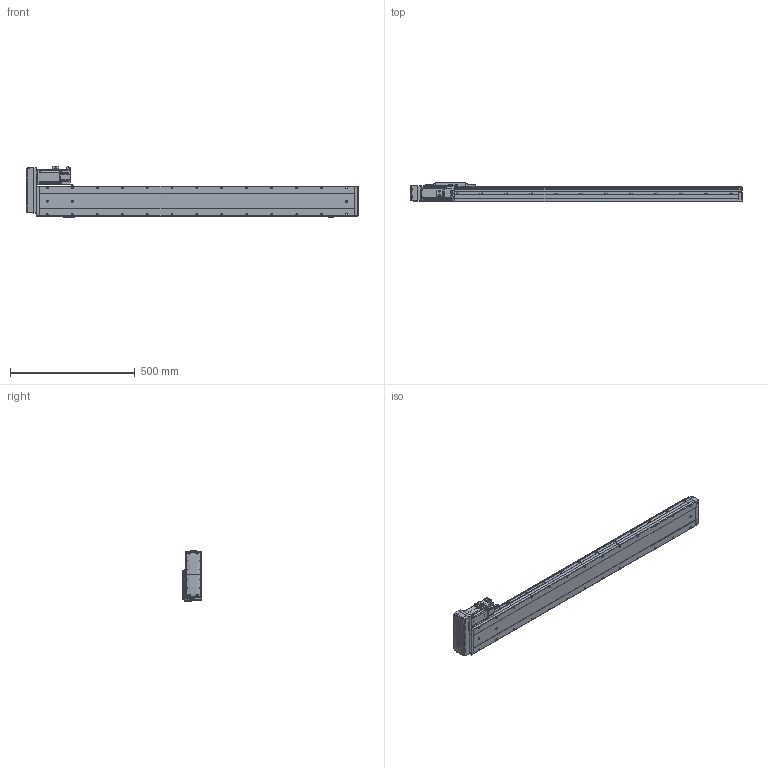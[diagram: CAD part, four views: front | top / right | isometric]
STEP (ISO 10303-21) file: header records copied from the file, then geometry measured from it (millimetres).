
FILE_DESCRIPTION (( 'STEP AP214' ), '1' );
FILE_NAME ('CTH12-L10-S1050-BL-C40（简）.STEP', '2023-02-06T03:16:45', ( '' ), ( '' ), 'SwSTEP 2.0', 'SolidWorks 2018', '' );
FILE_SCHEMA (( 'AUTOMOTIVE_DESIGN' ));
Length unit declared in the file: millimetre
Products named in the file (24): CTH12賑怢郪磁; 蚐郲; CTH12賑怢ㄗ潠ㄘ; CTH12_body_3; CTH12覜茼え; CTH12; 400W萇儂; CTH400W假蚾啣; 湮賑怢  裔赽-1(CTH12)賑怢; 嫖萇羲壽郪磁1; M5蹟隊; hex nuts, style 1-grades ab gb_GB_FASTENER_NUT_SNAB1 M3-N; CTH12耜蚾裔; PM-Y45; CTH12-BL_body_4; CTH嫖萇羲壽假蚾啣; CTH12-L10-S1050-BL-C40（简）; CTH12底座-L1261简（1050行程）; 内六角圆柱头螺钉M3; 内六角圆柱头螺钉M3-1; 嫖萇羲壽郪磁2; CTH400W垫板（3个厚）; 内六角圆柱头螺钉M3-2; CTH12侧装连接板（标准）简
Assembly tree (44 placements, depth 4):
  CTH12-L10-S1050-BL-C40（简）
    CTH12底座-L1261简（1050行程）
    蚐郲  x2
    CTH12_body_3
    CTH12-BL_body_4
    CTH12侧装连接板（标准）简
    CTH12耜蚾裔
    CTH12賑怢郪磁
      CTH12
        湮賑怢  裔赽-1(CTH12)賑怢
        CTH12賑怢ㄗ潠ㄘ
    CTH12覜茼え
    CTH400W垫板（3个厚）
    400W萇儂
    内六角圆柱头螺钉M3  x6
    M5蹟隊  x4
    嫖萇羲壽郪磁1
      CTH嫖萇羲壽假蚾啣
      PM-Y45
      内六角圆柱头螺钉M3-2  x2
      内六角圆柱头螺钉M3-1  x2
      hex nuts, style 1-grades ab gb_GB_FASTENER_NUT_SNAB1 M3-N  x2
    嫖萇羲壽郪磁2  x2
      CTH嫖萇羲壽假蚾啣
      PM-Y45
      内六角圆柱头螺钉M3-1
      内六角圆柱头螺钉M3-2
      hex nuts, style 1-grades ab gb_GB_FASTENER_NUT_SNAB1 M3-N
    CTH400W假蚾啣
Bounding box: 1331.5 x 76 x 205.26 mm (x, y, z)
Volume: 8836042.9 mm3; surface area: 829490.6 mm2
Topology: 47 solids, 48 shells, 3383 faces, 8456 edges, 5295 vertices
Faces by surface type: plane 1626, cylinder 962, cone 475, bspline 192, torus 124, sphere 4
Entity records: 111890 total; most frequent: CARTESIAN_POINT 41362, ORIENTED_EDGE 14014, DIRECTION 13289, EDGE_CURVE 7007, AXIS2_PLACEMENT_3D 4664, VERTEX_POINT 4399, LINE 3961, VECTOR 3961
